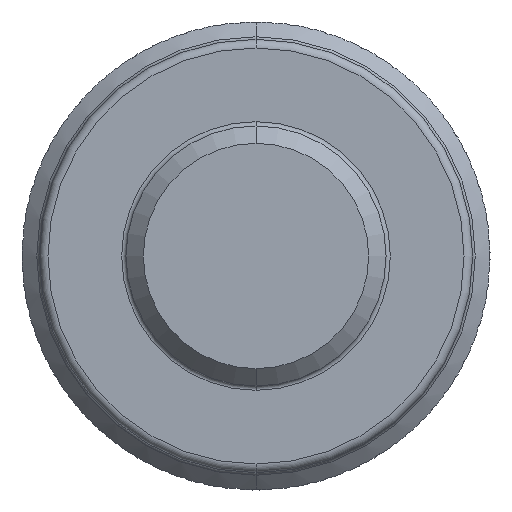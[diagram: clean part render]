
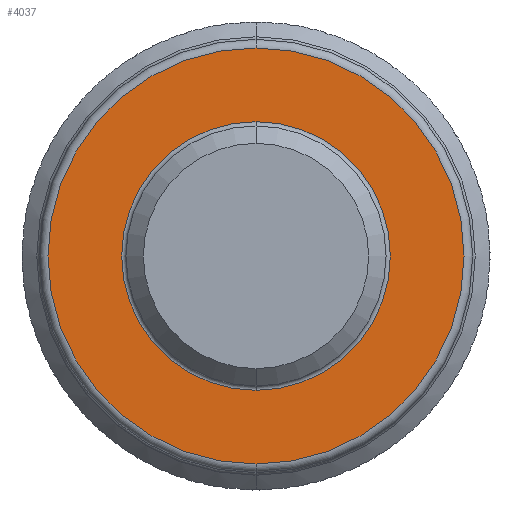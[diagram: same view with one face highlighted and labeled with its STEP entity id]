
A CAD part, front view. The second image highlights one B-rep face of the part: STEP entity #4037.
In plain terms, the highlighted planar face has unit normal (0, -1, 0).
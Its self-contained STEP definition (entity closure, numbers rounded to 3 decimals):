
#6 = CARTESIAN_POINT ( 'NONE',  ( 1.5, -3., 0. ) ) ;
#333 = DIRECTION ( 'NONE',  ( 0., -1., 0. ) ) ;
#412 = ORIENTED_EDGE ( 'NONE', *, *, #8188, .T. ) ;
#534 = CIRCLE ( 'NONE', #1016, 1.55 ) ;
#948 = VERTEX_POINT ( 'NONE', #7808 ) ;
#961 = CIRCLE ( 'NONE', #6623, 2.4 ) ;
#1016 = AXIS2_PLACEMENT_3D ( 'NONE', #3622, #5250, #5152 ) ;
#1149 = VERTEX_POINT ( 'NONE', #2533 ) ;
#1519 = DIRECTION ( 'NONE',  ( 0., -1., 0. ) ) ;
#1832 = CIRCLE ( 'NONE', #7489, 1.55 ) ;
#1934 = ORIENTED_EDGE ( 'NONE', *, *, #7446, .T. ) ;
#2036 = EDGE_LOOP ( 'NONE', ( #7938, #412 ) ) ;
#2383 = FACE_OUTER_BOUND ( 'NONE', #2036, .T. ) ;
#2475 = PLANE ( 'NONE',  #6237 ) ;
#2533 = CARTESIAN_POINT ( 'NONE',  ( 0., -3., -1.55 ) ) ;
#3138 = EDGE_CURVE ( 'NONE', #948, #6094, #8346, .T. ) ;
#3415 = DIRECTION ( 'NONE',  ( 0., 0., -1. ) ) ;
#3622 = CARTESIAN_POINT ( 'NONE',  ( 0., -3., 0. ) ) ;
#3851 = FACE_BOUND ( 'NONE', #5836, .T. ) ;
#3904 = DIRECTION ( 'NONE',  ( 0., 0., -1. ) ) ;
#3918 = CARTESIAN_POINT ( 'NONE',  ( 0., -3., 2.4 ) ) ;
#4037 = ADVANCED_FACE ( 'NONE', ( #3851, #2383 ), #2475, .T. ) ;
#4399 = CARTESIAN_POINT ( 'NONE',  ( 0., -3., 1.55 ) ) ;
#5152 = DIRECTION ( 'NONE',  ( 0., 0., -1. ) ) ;
#5250 = DIRECTION ( 'NONE',  ( 0., 1., 0. ) ) ;
#5565 = DIRECTION ( 'NONE',  ( 0., 1., 0. ) ) ;
#5749 = VERTEX_POINT ( 'NONE', #4399 ) ;
#5836 = EDGE_LOOP ( 'NONE', ( #8499, #1934 ) ) ;
#5854 = DIRECTION ( 'NONE',  ( 0., 0., -1. ) ) ;
#6094 = VERTEX_POINT ( 'NONE', #3918 ) ;
#6237 = AXIS2_PLACEMENT_3D ( 'NONE', #6, #1519, #3904 ) ;
#6623 = AXIS2_PLACEMENT_3D ( 'NONE', #8891, #333, #3415 ) ;
#7125 = EDGE_CURVE ( 'NONE', #1149, #5749, #534, .T. ) ;
#7386 = CARTESIAN_POINT ( 'NONE',  ( 0., -3., 0. ) ) ;
#7446 = EDGE_CURVE ( 'NONE', #5749, #1149, #1832, .T. ) ;
#7489 = AXIS2_PLACEMENT_3D ( 'NONE', #8761, #5565, #9567 ) ;
#7808 = CARTESIAN_POINT ( 'NONE',  ( 0., -3., -2.4 ) ) ;
#7938 = ORIENTED_EDGE ( 'NONE', *, *, #3138, .T. ) ;
#8188 = EDGE_CURVE ( 'NONE', #6094, #948, #961, .T. ) ;
#8346 = CIRCLE ( 'NONE', #8982, 2.4 ) ;
#8499 = ORIENTED_EDGE ( 'NONE', *, *, #7125, .T. ) ;
#8761 = CARTESIAN_POINT ( 'NONE',  ( 0., -3., 0. ) ) ;
#8891 = CARTESIAN_POINT ( 'NONE',  ( 0., -3., 0. ) ) ;
#8902 = DIRECTION ( 'NONE',  ( 0., -1., 0. ) ) ;
#8982 = AXIS2_PLACEMENT_3D ( 'NONE', #7386, #8902, #5854 ) ;
#9567 = DIRECTION ( 'NONE',  ( 0., 0., -1. ) ) ;
